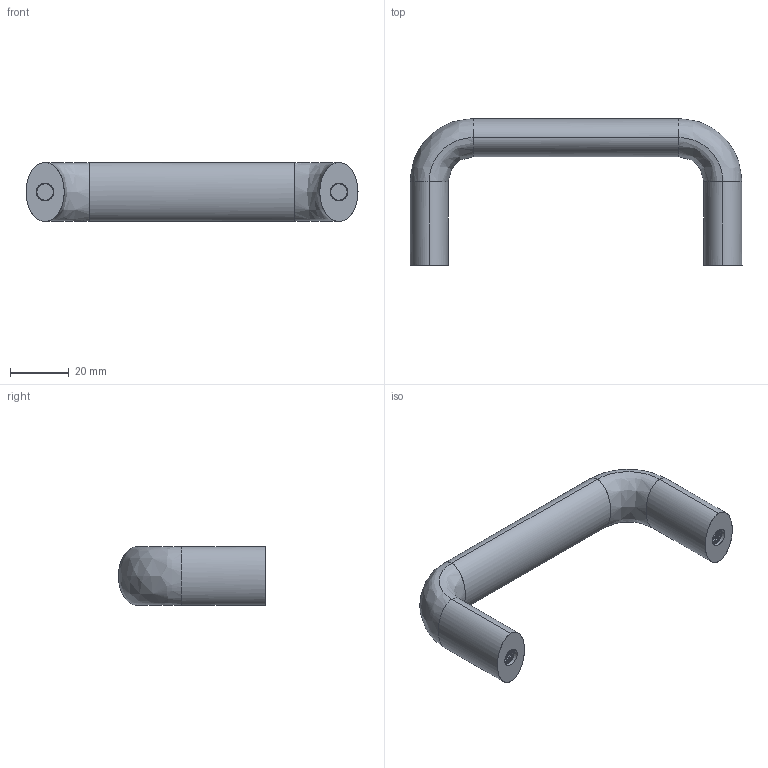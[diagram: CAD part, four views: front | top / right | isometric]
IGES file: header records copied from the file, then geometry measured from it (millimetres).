
Start section: SolidWorks IGES file using analytic representation for surfaces
Global section: file name: C:\Documents and Settings\Deathkiller\桌面\3D IGES\U型把手\MS-740\20\p=100.IGS; native system: SolidWorks 2006 by SolidWorks Corporation; preprocessor: SolidWorks 2006 by SolidWorks Corporation; author: Deathkiller; date: 080624.171911; units: millimetre
Bounding box: 113 x 49.99 x 20 mm (x, y, z)
Surface area: 9980.8 mm2 (no closed solid volume)
Topology: 0 solids, 0 shells, 62 faces, 1392 edges, 1392 vertices
Faces by surface type: revolution 40, bspline 22
